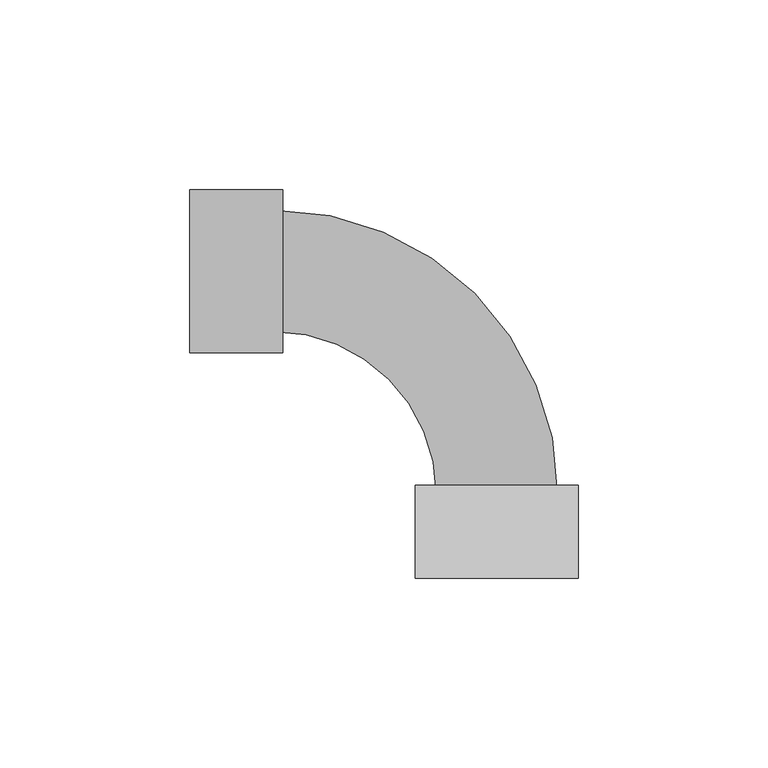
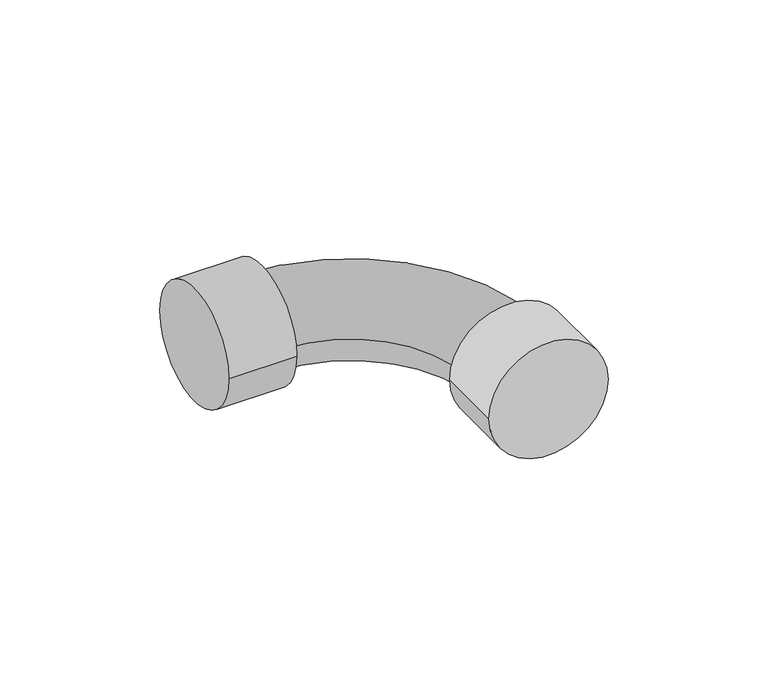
"""IFC4 building model written with IfcOpenShell, lengths in millimetres: pipe fitting geometry, 01051159 : Curva a 90º F/F."""

import ifcopenshell
import ifcopenshell.guid

model = None  # the IFC model being written
_history = None  # IfcOwnerHistory: only IFC2X3 demands one
_inside = {}  # id of a spatial element -> (the spatial element, [elements in it])
_under = {}  # id of a project, library or spatial element -> (it, [spatial elements below it])
_declared = {}  # id of a project -> (the project, [libraries it declares])
_typed = {}  # id of a type object -> (the type object, [elements of that type])
_made_of = {}  # id of a material, layer set ... -> (it, [elements and type objects made of it])


def new_model(schema):
    """Start an empty IFC model of exactly this schema.

    Asked for "IFC4X3", IfcOpenShell would pick the latest addendum, in which some entities
    have other attributes; the version numbers below select the first issue.
    IFC2X3 requires an IfcOwnerHistory on every rooted entity: one is made here for all.
    """
    global model, _history
    if schema == "IFC4X3":
        model = ifcopenshell.file(schema_version=(4, 3, 0, 0))
    else:
        model = ifcopenshell.file(schema=schema)
    _inside.clear()
    _under.clear()
    _declared.clear()
    _typed.clear()
    _made_of.clear()
    _history = None
    if model.schema == "IFC2X3":
        org = make("IfcOrganization", Name="unknown")
        user = make(
            "IfcPersonAndOrganization",
            ThePerson=make("IfcPerson", FamilyName="unknown"),
            TheOrganization=org,
        )
        app = make(
            "IfcApplication",
            ApplicationDeveloper=org,
            Version="unknown",
            ApplicationFullName="unknown",
            ApplicationIdentifier="unknown",
        )
        _history = make(
            "IfcOwnerHistory",
            OwningUser=user,
            OwningApplication=app,
            ChangeAction="ADDED",
            CreationDate=0,
        )
    return model


def make(cls, **values):
    """One entity of the class cls with the attributes given. An attribute that is None is left unset."""
    return model.create_entity(
        cls, **{name: value for name, value in values.items() if value is not None}
    )


def rooted(cls, **values):
    """An entity with a GlobalId (a new one), such as an element, a storey or a relation."""
    return make(cls, GlobalId=ifcopenshell.guid.new(), OwnerHistory=_history, **values)


def si_unit(unit_type, name, prefix=None):
    """IfcSIUnit, for example si_unit("LENGTHUNIT", "METRE", prefix="MILLI")."""
    return make("IfcSIUnit", UnitType=unit_type, Prefix=prefix, Name=name)


def assignment(units):
    """IfcUnitAssignment: the units of a project."""
    return None if units is None else make("IfcUnitAssignment", Units=units)


def point(xyz):
    """IfcCartesianPoint."""
    return None if xyz is None else make("IfcCartesianPoint", Coordinates=xyz)


def direction(xyz):
    """IfcDirection."""
    return None if xyz is None else make("IfcDirection", DirectionRatios=xyz)


def frame(location, z_axis=None, x_axis=None):
    """IfcAxis2Placement3D, a coordinate frame: its origin and axes. An axis left out is left unset."""
    return make(
        "IfcAxis2Placement3D",
        Location=point(location),
        Axis=direction(z_axis),
        RefDirection=direction(x_axis),
    )


def frame_2d(location, x_axis=None):
    """IfcAxis2Placement2D, a coordinate frame in the plane: its origin and x axis."""
    return make(
        "IfcAxis2Placement2D", Location=point(location), RefDirection=direction(x_axis)
    )


def origin():
    """The frame at (0, 0, 0) with its axes left unset."""
    return frame((0.0, 0.0, 0.0))


def origin_2d():
    """The frame at (0, 0) in the plane with its x axis left unset."""
    return frame_2d((0.0, 0.0))


def place(relative_to, where):
    """IfcLocalPlacement: puts the frame where relative to a parent placement (None: the world)."""
    return make(
        "IfcLocalPlacement", PlacementRelTo=relative_to, RelativePlacement=where
    )


def context(
    kind, dimensions, precision=None, world=None, true_north=None, identifier=None
):
    """IfcGeometricRepresentationContext, for example the 3D "Model" context."""
    return make(
        "IfcGeometricRepresentationContext",
        ContextIdentifier=identifier,
        ContextType=kind,
        CoordinateSpaceDimension=dimensions,
        Precision=precision,
        WorldCoordinateSystem=world,
        TrueNorth=true_north,
    )


def project(units=None, contexts=None):
    """IfcProject with its units and contexts."""
    return rooted(
        "IfcProject",
        Name="project",
        RepresentationContexts=contexts,
        UnitsInContext=assignment(units),
    )


def spatial(cls, under=None, at=None, **own):
    """A site, building, storey or space (cls), placed at a placement, below another one or the project."""
    s = rooted(cls, ObjectPlacement=at, **own)
    if under is not None:
        _under.setdefault(under.id(), (under, []))[1].append(s)
    return s


def circle_curve(where, radius):
    """IfcCircle in the frame where."""
    return make("IfcCircle", Position=where, Radius=radius)


def ellipse_curve(where, semi_axis1, semi_axis2):
    """IfcEllipse in the frame where."""
    return make(
        "IfcEllipse", Position=where, SemiAxis1=semi_axis1, SemiAxis2=semi_axis2
    )


def trimmed(basis, trim1, trim2, sense, master):
    """IfcTrimmedCurve: the piece of a basis curve between two trims."""
    return make(
        "IfcTrimmedCurve",
        BasisCurve=basis,
        Trim1=trim1,
        Trim2=trim2,
        SenseAgreement=sense,
        MasterRepresentation=master,
    )


def segment(curve, same_sense, transition):
    """IfcCompositeCurveSegment."""
    return make(
        "IfcCompositeCurveSegment",
        Transition=transition,
        SameSense=same_sense,
        ParentCurve=curve,
    )


def composite_curve(segments, self_intersect=None):
    """IfcCompositeCurve: segments joined end to end."""
    return make("IfcCompositeCurve", Segments=segments, SelfIntersect=self_intersect)


def outline(outer, holes=None, kind="AREA"):
    """IfcArbitraryClosedProfileDef: a profile drawn as a closed curve; with holes, ...WithVoids."""
    if holes is None:
        return make("IfcArbitraryClosedProfileDef", ProfileType=kind, OuterCurve=outer)
    return make(
        "IfcArbitraryProfileDefWithVoids",
        ProfileType=kind,
        OuterCurve=outer,
        InnerCurves=holes,
    )


def extrude(swept, where, along, depth):
    """IfcExtrudedAreaSolid: the profile swept, set in the frame where, extruded along a direction by depth."""
    return make(
        "IfcExtrudedAreaSolid",
        SweptArea=swept,
        Position=where,
        ExtrudedDirection=direction(along),
        Depth=depth,
    )


def shape(context_of_items, identifier, shape_type, items):
    """IfcShapeRepresentation: the items that make up one representation, for example the "Body"."""
    return make(
        "IfcShapeRepresentation",
        ContextOfItems=context_of_items,
        RepresentationIdentifier=identifier,
        RepresentationType=shape_type,
        Items=items,
    )


def source(mapping_origin, context_of_items, identifier, shape_type, items):
    """IfcRepresentationMap: a shape defined once, which mapped items show again and again."""
    return make(
        "IfcRepresentationMap",
        MappingOrigin=mapping_origin,
        MappedRepresentation=shape(context_of_items, identifier, shape_type, items),
    )


def transform(
    local_origin,
    x_axis=None,
    y_axis=None,
    z_axis=None,
    scale=None,
    scale2=None,
    scale3=None,
    uniform=True,
):
    """IfcCartesianTransformationOperator3D, or its non-uniform kind. x_axis, y_axis, z_axis: its Axis1, 2, 3."""
    if uniform:
        return make(
            "IfcCartesianTransformationOperator3D",
            Axis1=direction(x_axis),
            Axis2=direction(y_axis),
            LocalOrigin=point(local_origin),
            Scale=scale,
            Axis3=direction(z_axis),
        )
    return make(
        "IfcCartesianTransformationOperator3DnonUniform",
        Axis1=direction(x_axis),
        Axis2=direction(y_axis),
        LocalOrigin=point(local_origin),
        Scale=scale,
        Axis3=direction(z_axis),
        Scale2=scale2,
        Scale3=scale3,
    )


def mapped(mapping_source, mapping_target):
    """IfcMappedItem: shows the shape of a source again, moved by a transform."""
    return make(
        "IfcMappedItem", MappingSource=mapping_source, MappingTarget=mapping_target
    )


def made_of(thing, what):
    """Note that an element or type object is made of a material, layer set ...; save() writes the relation."""
    if what is not None:
        _made_of.setdefault(what.id(), (what, []))[1].append(thing)
    return thing


def element(
    cls,
    number,
    at=None,
    inside=None,
    cuts=None,
    type_object=None,
    material=None,
    context=None,
    identifier="Body",
    shape_type=None,
    held_by="IfcProductDefinitionShape",
    body=None,
    shapes=None,
    **own,
):
    """One element of the class cls, such as IfcWall. Its Tag is "e" and its number.

    at: its placement. inside: the storey or other place that contains it. cuts: it is an
    opening in that element (IfcRelVoidsElement). A single representation is given by context,
    identifier, shape_type and body (its items); several are given by shapes. held_by: the class
    of the entity that holds the representations. save() writes the other relations.
    """
    e = rooted(cls, Tag="e%d" % number, ObjectPlacement=at, **own)
    if body is not None:
        shapes = [shape(context, identifier, shape_type, body)]
    if shapes is not None:
        e.Representation = make(held_by, Representations=shapes)
    if inside is not None:
        _inside.setdefault(inside.id(), (inside, []))[1].append(e)
    if cuts is not None:
        rooted(
            "IfcRelVoidsElement", RelatingBuildingElement=cuts, RelatedOpeningElement=e
        )
    if type_object is not None:
        _typed.setdefault(type_object.id(), (type_object, []))[1].append(e)
    return made_of(e, material)


def aggregate(whole, parts):
    """IfcRelAggregates: a whole, such as a stair, and the parts it consists of."""
    return rooted("IfcRelAggregates", RelatingObject=whole, RelatedObjects=parts)


def save(model, path):
    """Write the relations noted so far, then the file.

    IfcRelAggregates (storeys below a building ...), IfcRelContainedInSpatialStructure (elements
    in a storey), IfcRelDefinesByType, IfcRelAssociatesMaterial and IfcRelDeclares: one each for
    every whole, place, type object, material and project.
    """
    for whole, parts in _under.values():
        aggregate(whole, parts)
    for where, things in _inside.values():
        rooted(
            "IfcRelContainedInSpatialStructure",
            RelatedElements=things,
            RelatingStructure=where,
        )
    for kind, things in _typed.values():
        rooted("IfcRelDefinesByType", RelatedObjects=things, RelatingType=kind)
    for what, things in _made_of.values():
        rooted("IfcRelAssociatesMaterial", RelatedObjects=things, RelatingMaterial=what)
    for by, libraries in _declared.values():
        rooted("IfcRelDeclares", RelatingContext=by, RelatedDefinitions=libraries)
    model.write(path)


def plane_surface(at):
    """IfcPlane: the flat surface through the origin of the frame at, square to its z axis."""
    return make("IfcPlane", Position=at)


def revolved_surface(curve, axis_point, axis_direction):
    """IfcSurfaceOfRevolution: the curve turned about the line through axis_point along axis_direction."""
    return make(
        "IfcSurfaceOfRevolution",
        SweptCurve=make("IfcArbitraryOpenProfileDef", ProfileType="CURVE", Curve=curve),
        AxisPosition=make("IfcAxis1Placement", Location=point(axis_point), Axis=direction(axis_direction)),
    )


def advanced_brep(points, edges, surfaces, faces):
    """IfcAdvancedBrep: a solid bounded by faces that lie on surfaces and meet in shared edges.

    An edge is (start, end): straight between two places in points (the first is 0);
    or (start, end, curve); or (start, end, curve, False) where it runs against its curve.
    A face is (place in surfaces, loops), or (place, loops, False) where it looks against
    its surface's normal. A loop lists edges by number (the first is 1), with a minus sign
    where the edge is run from its end to its start. The first loop is the outer one.
    """
    corners = [point(p) for p in points]
    vertices = [make("IfcVertexPoint", VertexGeometry=c) for c in corners]
    made = []
    for start, end, *more in edges:
        made.append(
            make(
                "IfcEdgeCurve",
                EdgeStart=vertices[start],
                EdgeEnd=vertices[end],
                EdgeGeometry=more[0] if more else make("IfcPolyline", Points=[corners[start], corners[end]]),
                SameSense=more[1] if len(more) > 1 else True,
            )
        )
    hull = []
    for where, loops, *sense in faces:
        bounds = []
        for j, loop in enumerate(loops):
            ring = [make("IfcOrientedEdge", EdgeElement=made[abs(k) - 1], Orientation=k > 0) for k in loop]
            bounds.append(
                make(
                    "IfcFaceOuterBound" if j == 0 else "IfcFaceBound",
                    Bound=make("IfcEdgeLoop", EdgeList=ring),
                    Orientation=True,
                )
            )
        hull.append(make("IfcAdvancedFace", Bounds=bounds, FaceSurface=surfaces[where], SameSense=sense[0] if sense else True))
    return make("IfcAdvancedBrep", Outer=make("IfcClosedShell", CfsFaces=hull))


def pipe_fitting_bdf2c550(model_context):
    return source(origin(), model_context, "Body", "SolidModel", [
        extrude(outline(composite_curve([segment(trimmed(circle_curve(origin_2d(), 21.5), [point((21.5, 0.0))], [point((-21.5, 0.0))], False, "CARTESIAN"), True, "CONTINUOUS"), segment(trimmed(circle_curve(origin_2d(), 21.5), [point((-21.5, 0.0))], [point((21.5, 0.0))], False, "CARTESIAN"), True, "CONTINUOUS")], self_intersect=False)), frame((-81.0, 0.0, 0.0), z_axis=(1.0, 0.0, 0.0), x_axis=(0.0, 1.0, 0.0)), (0.0, 0.0, 1.0), 24.5),
        extrude(outline(composite_curve([segment(trimmed(circle_curve(origin_2d(), 21.5), [point((0.0, -21.5))], [point((0.0, 21.5))], False, "CARTESIAN"), True, "CONTINUOUS"), segment(trimmed(circle_curve(origin_2d(), 21.5), [point((0.0, 21.5))], [point((0.0, -21.5))], False, "CARTESIAN"), True, "CONTINUOUS")], self_intersect=False)), frame((0.0, -81.0, 0.0), z_axis=(0.0, 1.0, 0.0), x_axis=(0.0, 0.0, 1.0)), (0.0, 0.0, 1.0), 24.5),
        advanced_brep(
        [(-16.0, -58.5, 0.0), (16.0, -58.5, 0.0), (-58.5, -16.0, 0.0), (-58.5, 16.0, 0.0)],
        [
            (0, 1, circle_curve(frame((0.0, -58.5, 0.0), z_axis=(0.0, -1.0, 0.0), x_axis=(1.0, 0.0, 0.0)), 16.0)),
            (1, 0, circle_curve(frame((0.0, -58.5, 0.0), z_axis=(0.0, -1.0, 0.0), x_axis=(1.0, 0.0, 0.0)), 16.0)),
            (2, 3, circle_curve(frame((-58.5, 0.0, 0.0), z_axis=(-1.0, 0.0, 0.0), x_axis=(0.0, 1.0, 0.0)), 16.0)),
            (3, 2, circle_curve(frame((-58.5, 0.0, 0.0), z_axis=(-1.0, 0.0, 0.0), x_axis=(0.0, 1.0, 0.0)), 16.0)),
            (2, 0, circle_curve(frame((-58.5, -58.5, 0.0), z_axis=(0.0, 0.0, -1.0), x_axis=(1.0, 0.0, 0.0)), 42.5)),
            (1, 3, circle_curve(frame((-58.5, -58.5, 0.0), z_axis=(0.0, 0.0, 1.0), x_axis=(1.0, 0.0, 0.0)), 74.5)),
        ],
        [
            plane_surface(frame((0.0, -58.5, 0.0), z_axis=(0.0, -1.0, 0.0), x_axis=(0.0, 0.0, 1.0))),
            plane_surface(frame((-58.5, 0.0, 0.0), z_axis=(-1.0, 0.0, 0.0), x_axis=(0.0, 0.0, 1.0))),
            revolved_surface(trimmed(ellipse_curve(frame((0.0, -58.5, 0.0), z_axis=(0.0, 1.0, 0.0), x_axis=(1.0, 0.0, 0.0)), 16.0, 16.0), [point((-16.0, -58.5, 0.0))], [point((16.0, -58.5, 0.0))], True, "CARTESIAN"), (-58.5, -58.5, 0.0), (0.0, 0.0, -1.0)),
            revolved_surface(trimmed(ellipse_curve(frame((0.0, -58.5, 0.0), z_axis=(0.0, 1.0, 0.0), x_axis=(1.0, 0.0, 0.0)), 16.0, 16.0), [point((16.0, -58.5, 0.0))], [point((-16.0, -58.5, 0.0))], True, "CARTESIAN"), (-58.5, -58.5, 0.0), (0.0, 0.0, -1.0)),
        ],
        [
            (0, [[1, 2]]),
            (1, [[3, 4]]),
            (2, [[-3, 5, -2, 6]]),
            (3, [[-4, -6, -1, -5]]),
        ],
    ),
    ])


if __name__ == "__main__":
    model = new_model("IFC4")
    model_context = context("Model", 3, world=origin())
    ifc_project = project(units=[si_unit("LENGTHUNIT", "METRE", prefix="MILLI")], contexts=[model_context])
    site = spatial("IfcSite", under=ifc_project)
    building = spatial("IfcBuilding", under=site)
    placement = place(None, origin())
    pipe_fitting_shape = pipe_fitting_bdf2c550(model_context)
    element("IfcPipeFitting", 1, ObjectType="01051159 : Curva a 90º F/F", at=placement, inside=building, context=model_context, shape_type="MappedRepresentation", body=[
        mapped(pipe_fitting_shape, transform((0.0, 0.0, 0.0), x_axis=(1.0, 0.0, 0.0), y_axis=(0.0, 1.0, 0.0), z_axis=(0.0, 0.0, 1.0))),
    ])
    save(model, "model.ifc")
